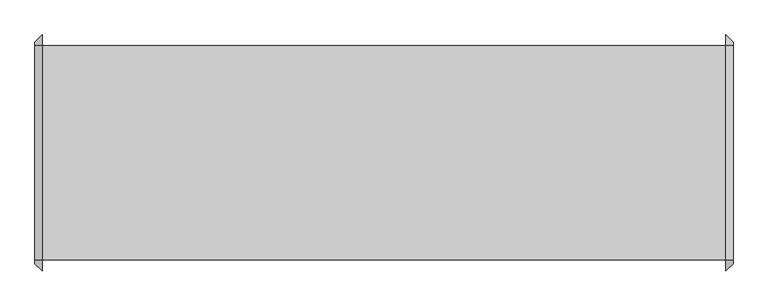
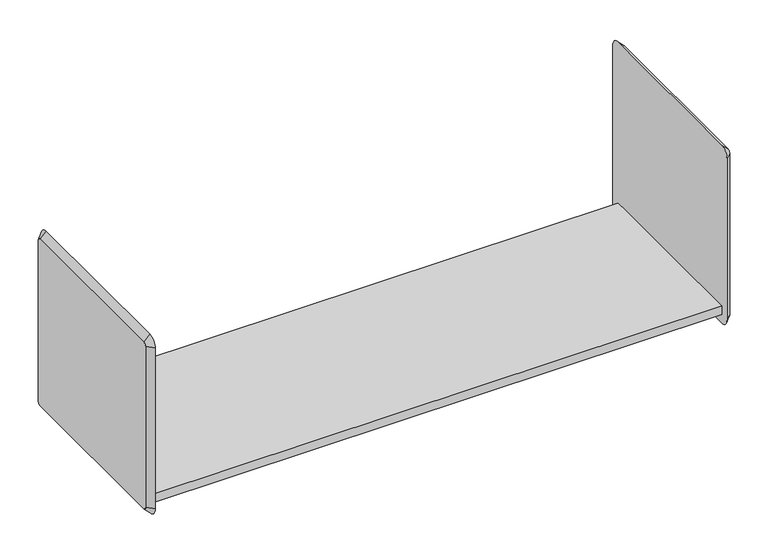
"""IFC4 building model written with IfcOpenShell, lengths in millimetres: furniture geometry, HermanMiller_ActionOffice_A3210_B-StyleShelf : 15-1/2H 16D 48W."""

import ifcopenshell
import ifcopenshell.guid

model = None  # the IFC model being written
_history = None  # IfcOwnerHistory: only IFC2X3 demands one
_inside = {}  # id of a spatial element -> (the spatial element, [elements in it])
_under = {}  # id of a project, library or spatial element -> (it, [spatial elements below it])
_declared = {}  # id of a project -> (the project, [libraries it declares])
_typed = {}  # id of a type object -> (the type object, [elements of that type])
_made_of = {}  # id of a material, layer set ... -> (it, [elements and type objects made of it])


def new_model(schema):
    """Start an empty IFC model of exactly this schema.

    Asked for "IFC4X3", IfcOpenShell would pick the latest addendum, in which some entities
    have other attributes; the version numbers below select the first issue.
    IFC2X3 requires an IfcOwnerHistory on every rooted entity: one is made here for all.
    """
    global model, _history
    if schema == "IFC4X3":
        model = ifcopenshell.file(schema_version=(4, 3, 0, 0))
    else:
        model = ifcopenshell.file(schema=schema)
    _inside.clear()
    _under.clear()
    _declared.clear()
    _typed.clear()
    _made_of.clear()
    _history = None
    if model.schema == "IFC2X3":
        org = make("IfcOrganization", Name="unknown")
        user = make(
            "IfcPersonAndOrganization",
            ThePerson=make("IfcPerson", FamilyName="unknown"),
            TheOrganization=org,
        )
        app = make(
            "IfcApplication",
            ApplicationDeveloper=org,
            Version="unknown",
            ApplicationFullName="unknown",
            ApplicationIdentifier="unknown",
        )
        _history = make(
            "IfcOwnerHistory",
            OwningUser=user,
            OwningApplication=app,
            ChangeAction="ADDED",
            CreationDate=0,
        )
    return model


def make(cls, **values):
    """One entity of the class cls with the attributes given. An attribute that is None is left unset."""
    return model.create_entity(
        cls, **{name: value for name, value in values.items() if value is not None}
    )


def rooted(cls, **values):
    """An entity with a GlobalId (a new one), such as an element, a storey or a relation."""
    return make(cls, GlobalId=ifcopenshell.guid.new(), OwnerHistory=_history, **values)


def si_unit(unit_type, name, prefix=None):
    """IfcSIUnit, for example si_unit("LENGTHUNIT", "METRE", prefix="MILLI")."""
    return make("IfcSIUnit", UnitType=unit_type, Prefix=prefix, Name=name)


def assignment(units):
    """IfcUnitAssignment: the units of a project."""
    return None if units is None else make("IfcUnitAssignment", Units=units)


def point(xyz):
    """IfcCartesianPoint."""
    return None if xyz is None else make("IfcCartesianPoint", Coordinates=xyz)


def direction(xyz):
    """IfcDirection."""
    return None if xyz is None else make("IfcDirection", DirectionRatios=xyz)


def frame(location, z_axis=None, x_axis=None):
    """IfcAxis2Placement3D, a coordinate frame: its origin and axes. An axis left out is left unset."""
    return make(
        "IfcAxis2Placement3D",
        Location=point(location),
        Axis=direction(z_axis),
        RefDirection=direction(x_axis),
    )


def origin():
    """The frame at (0, 0, 0) with its axes left unset."""
    return frame((0.0, 0.0, 0.0))


def place(relative_to, where):
    """IfcLocalPlacement: puts the frame where relative to a parent placement (None: the world)."""
    return make(
        "IfcLocalPlacement", PlacementRelTo=relative_to, RelativePlacement=where
    )


def context(
    kind, dimensions, precision=None, world=None, true_north=None, identifier=None
):
    """IfcGeometricRepresentationContext, for example the 3D "Model" context."""
    return make(
        "IfcGeometricRepresentationContext",
        ContextIdentifier=identifier,
        ContextType=kind,
        CoordinateSpaceDimension=dimensions,
        Precision=precision,
        WorldCoordinateSystem=world,
        TrueNorth=true_north,
    )


def project(units=None, contexts=None):
    """IfcProject with its units and contexts."""
    return rooted(
        "IfcProject",
        Name="project",
        RepresentationContexts=contexts,
        UnitsInContext=assignment(units),
    )


def spatial(cls, under=None, at=None, **own):
    """A site, building, storey or space (cls), placed at a placement, below another one or the project."""
    s = rooted(cls, ObjectPlacement=at, **own)
    if under is not None:
        _under.setdefault(under.id(), (under, []))[1].append(s)
    return s


def polyline(points):
    """IfcPolyline through the points."""
    return make("IfcPolyline", Points=[point(p) for p in points])


def circle_curve(where, radius):
    """IfcCircle in the frame where."""
    return make("IfcCircle", Position=where, Radius=radius)


def outline(outer, holes=None, kind="AREA"):
    """IfcArbitraryClosedProfileDef: a profile drawn as a closed curve; with holes, ...WithVoids."""
    if holes is None:
        return make("IfcArbitraryClosedProfileDef", ProfileType=kind, OuterCurve=outer)
    return make(
        "IfcArbitraryProfileDefWithVoids",
        ProfileType=kind,
        OuterCurve=outer,
        InnerCurves=holes,
    )


def extrude(swept, where, along, depth):
    """IfcExtrudedAreaSolid: the profile swept, set in the frame where, extruded along a direction by depth."""
    return make(
        "IfcExtrudedAreaSolid",
        SweptArea=swept,
        Position=where,
        ExtrudedDirection=direction(along),
        Depth=depth,
    )


def shape(context_of_items, identifier, shape_type, items):
    """IfcShapeRepresentation: the items that make up one representation, for example the "Body"."""
    return make(
        "IfcShapeRepresentation",
        ContextOfItems=context_of_items,
        RepresentationIdentifier=identifier,
        RepresentationType=shape_type,
        Items=items,
    )


def source(mapping_origin, context_of_items, identifier, shape_type, items):
    """IfcRepresentationMap: a shape defined once, which mapped items show again and again."""
    return make(
        "IfcRepresentationMap",
        MappingOrigin=mapping_origin,
        MappedRepresentation=shape(context_of_items, identifier, shape_type, items),
    )


def transform(
    local_origin,
    x_axis=None,
    y_axis=None,
    z_axis=None,
    scale=None,
    scale2=None,
    scale3=None,
    uniform=True,
):
    """IfcCartesianTransformationOperator3D, or its non-uniform kind. x_axis, y_axis, z_axis: its Axis1, 2, 3."""
    if uniform:
        return make(
            "IfcCartesianTransformationOperator3D",
            Axis1=direction(x_axis),
            Axis2=direction(y_axis),
            LocalOrigin=point(local_origin),
            Scale=scale,
            Axis3=direction(z_axis),
        )
    return make(
        "IfcCartesianTransformationOperator3DnonUniform",
        Axis1=direction(x_axis),
        Axis2=direction(y_axis),
        LocalOrigin=point(local_origin),
        Scale=scale,
        Axis3=direction(z_axis),
        Scale2=scale2,
        Scale3=scale3,
    )


def mapped(mapping_source, mapping_target):
    """IfcMappedItem: shows the shape of a source again, moved by a transform."""
    return make(
        "IfcMappedItem", MappingSource=mapping_source, MappingTarget=mapping_target
    )


def made_of(thing, what):
    """Note that an element or type object is made of a material, layer set ...; save() writes the relation."""
    if what is not None:
        _made_of.setdefault(what.id(), (what, []))[1].append(thing)
    return thing


def element(
    cls,
    number,
    at=None,
    inside=None,
    cuts=None,
    type_object=None,
    material=None,
    context=None,
    identifier="Body",
    shape_type=None,
    held_by="IfcProductDefinitionShape",
    body=None,
    shapes=None,
    **own,
):
    """One element of the class cls, such as IfcWall. Its Tag is "e" and its number.

    at: its placement. inside: the storey or other place that contains it. cuts: it is an
    opening in that element (IfcRelVoidsElement). A single representation is given by context,
    identifier, shape_type and body (its items); several are given by shapes. held_by: the class
    of the entity that holds the representations. save() writes the other relations.
    """
    e = rooted(cls, Tag="e%d" % number, ObjectPlacement=at, **own)
    if body is not None:
        shapes = [shape(context, identifier, shape_type, body)]
    if shapes is not None:
        e.Representation = make(held_by, Representations=shapes)
    if inside is not None:
        _inside.setdefault(inside.id(), (inside, []))[1].append(e)
    if cuts is not None:
        rooted(
            "IfcRelVoidsElement", RelatingBuildingElement=cuts, RelatedOpeningElement=e
        )
    if type_object is not None:
        _typed.setdefault(type_object.id(), (type_object, []))[1].append(e)
    return made_of(e, material)


def aggregate(whole, parts):
    """IfcRelAggregates: a whole, such as a stair, and the parts it consists of."""
    return rooted("IfcRelAggregates", RelatingObject=whole, RelatedObjects=parts)


def save(model, path):
    """Write the relations noted so far, then the file.

    IfcRelAggregates (storeys below a building ...), IfcRelContainedInSpatialStructure (elements
    in a storey), IfcRelDefinesByType, IfcRelAssociatesMaterial and IfcRelDeclares: one each for
    every whole, place, type object, material and project.
    """
    for whole, parts in _under.values():
        aggregate(whole, parts)
    for where, things in _inside.values():
        rooted(
            "IfcRelContainedInSpatialStructure",
            RelatedElements=things,
            RelatingStructure=where,
        )
    for kind, things in _typed.values():
        rooted("IfcRelDefinesByType", RelatedObjects=things, RelatingType=kind)
    for what, things in _made_of.values():
        rooted("IfcRelAssociatesMaterial", RelatedObjects=things, RelatingMaterial=what)
    for by, libraries in _declared.values():
        rooted("IfcRelDeclares", RelatingContext=by, RelatedDefinitions=libraries)
    model.write(path)


def plane_surface(at):
    """IfcPlane: the flat surface through the origin of the frame at, square to its z axis."""
    return make("IfcPlane", Position=at)


def revolved_surface(curve, axis_point, axis_direction):
    """IfcSurfaceOfRevolution: the curve turned about the line through axis_point along axis_direction."""
    return make(
        "IfcSurfaceOfRevolution",
        SweptCurve=make("IfcArbitraryOpenProfileDef", ProfileType="CURVE", Curve=curve),
        AxisPosition=make("IfcAxis1Placement", Location=point(axis_point), Axis=direction(axis_direction)),
    )


def advanced_brep(points, edges, surfaces, faces):
    """IfcAdvancedBrep: a solid bounded by faces that lie on surfaces and meet in shared edges.

    An edge is (start, end): straight between two places in points (the first is 0);
    or (start, end, curve); or (start, end, curve, False) where it runs against its curve.
    A face is (place in surfaces, loops), or (place, loops, False) where it looks against
    its surface's normal. A loop lists edges by number (the first is 1), with a minus sign
    where the edge is run from its end to its start. The first loop is the outer one.
    """
    corners = [point(p) for p in points]
    vertices = [make("IfcVertexPoint", VertexGeometry=c) for c in corners]
    made = []
    for start, end, *more in edges:
        made.append(
            make(
                "IfcEdgeCurve",
                EdgeStart=vertices[start],
                EdgeEnd=vertices[end],
                EdgeGeometry=more[0] if more else make("IfcPolyline", Points=[corners[start], corners[end]]),
                SameSense=more[1] if len(more) > 1 else True,
            )
        )
    hull = []
    for where, loops, *sense in faces:
        bounds = []
        for j, loop in enumerate(loops):
            ring = [make("IfcOrientedEdge", EdgeElement=made[abs(k) - 1], Orientation=k > 0) for k in loop]
            bounds.append(
                make(
                    "IfcFaceOuterBound" if j == 0 else "IfcFaceBound",
                    Bound=make("IfcEdgeLoop", EdgeList=ring),
                    Orientation=True,
                )
            )
        hull.append(make("IfcAdvancedFace", Bounds=bounds, FaceSurface=surfaces[where], SameSense=sense[0] if sense else True))
    return make("IfcAdvancedBrep", Outer=make("IfcClosedShell", CfsFaces=hull))


def furniture_85efdc16(model_context):
    return source(origin(), model_context, "Body", "SolidModel", [
        extrude(outline(polyline([(472.9579955, 200.025), (472.9579955, 196.85), (-720.8420045, 196.85), (-720.8420045, 200.025), (472.9579955, 200.025)])), frame((0.0, 0.0, 1200.1152313), z_axis=(0.0, 0.0, 1.0), x_axis=(1.0, 0.0, 0.0)), (0.0, 0.0, 1.0), 15.9097687),
        extrude(outline(polyline([(-174.625, 1219.2), (200.025, 1219.2), (200.025, 1216.025), (-171.45, 1216.025), (-171.45, 1200.1152313), (-174.625, 1200.1152313), (-174.625, 1219.2)])), frame((-720.8420045, 0.0, 0.0), z_axis=(1.0, 0.0, 0.0), x_axis=(0.0, 1.0, 0.0)), (0.0, 0.0, 1.0), 1193.8),
        advanced_brep(
        [(485.6579955, 200.025, 1562.1), (485.6579955, -174.625, 1562.1), (485.6579955, -180.975, 1555.75), (485.6579955, -180.975, 1200.15), (485.6579955, -174.625, 1193.8), (485.6579955, 200.025, 1193.8), (485.6579955, 206.375, 1200.15), (485.6579955, 206.375, 1555.75), (472.9579955, 200.025, 1574.8), (472.9579955, 219.075, 1555.75), (472.9579955, 219.075, 1200.15), (472.9579955, 200.025, 1181.1), (472.9579955, -174.625, 1181.1), (472.9579955, -193.675, 1200.15), (472.9579955, -193.675, 1555.75), (472.9579955, -174.625, 1574.8)],
        [
            (0, 1),
            (1, 2, circle_curve(frame((485.6579955, -174.625, 1555.75), z_axis=(1.0, 0.0, 0.0), x_axis=(0.0, 0.0, 1.0)), 6.35)),
            (2, 3),
            (3, 4, circle_curve(frame((485.6579955, -174.625, 1200.15), z_axis=(1.0, 0.0, 0.0), x_axis=(0.0, -1.0, 0.0)), 6.35)),
            (4, 5),
            (5, 6, circle_curve(frame((485.6579955, 200.025, 1200.15), z_axis=(1.0, 0.0, 0.0), x_axis=(0.0, 0.0, -1.0)), 6.35)),
            (6, 7),
            (7, 0, circle_curve(frame((485.6579955, 200.025, 1555.75), z_axis=(1.0, 0.0, 0.0), x_axis=(0.0, 1.0, 0.0)), 6.35)),
            (8, 9, circle_curve(frame((472.9579955, 200.025, 1555.75), z_axis=(-1.0, 0.0, 0.0), x_axis=(0.0, 1.0, 0.0)), 19.05)),
            (9, 10),
            (10, 11, circle_curve(frame((472.9579955, 200.025, 1200.15), z_axis=(-1.0, 0.0, 0.0), x_axis=(0.0, 0.0, -1.0)), 19.05)),
            (11, 12),
            (12, 13, circle_curve(frame((472.9579955, -174.625, 1200.15), z_axis=(-1.0, 0.0, 0.0), x_axis=(0.0, -1.0, 0.0)), 19.05)),
            (13, 14),
            (14, 15, circle_curve(frame((472.9579955, -174.625, 1555.75), z_axis=(-1.0, 0.0, 0.0), x_axis=(0.0, 0.0, 1.0)), 19.05)),
            (15, 8),
            (15, 1),
            (0, 8),
            (14, 2),
            (13, 3),
            (12, 4),
            (11, 5),
            (10, 6),
            (9, 7),
        ],
        [
            plane_surface(frame((485.6579955, 12.7, 1377.95), z_axis=(1.0, 0.0, 0.0), x_axis=(0.0, -1.0, 0.0))),
            plane_surface(frame((472.9579955, 12.7, 1377.95), z_axis=(-1.0, 0.0, 0.0), x_axis=(0.0, -1.0, 0.0))),
            plane_surface(frame((472.9579955, 12.7, 1574.8), z_axis=(0.7071067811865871, 0.0, 0.707106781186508), x_axis=(0.0, -1.0, 0.0))),
            revolved_surface(polyline([(485.6579955, -174.625, 1562.1), (472.9579955, -174.625, 1574.8)]), (492.0079955, -174.625, 1555.75), (-1.0, 0.0, 0.0)),
            plane_surface(frame((472.9579955, -193.675, 1377.95), z_axis=(0.7071067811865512, -0.7071067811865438, 0.0), x_axis=(0.0, 0.0, -1.0))),
            revolved_surface(polyline([(485.6579955, -180.97499999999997, 1200.15), (472.9579955, -193.675, 1200.15)]), (492.0079955, -174.625, 1200.15), (-1.0, 0.0, 0.0)),
            plane_surface(frame((472.9579955, 12.7, 1181.1), z_axis=(0.7071067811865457, 0.0, -0.7071067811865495), x_axis=(0.0, 1.0, 0.0))),
            revolved_surface(polyline([(485.6579955, 200.025, 1193.8000000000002), (472.9579955, 200.025, 1181.1)]), (492.0079955, 200.025, 1200.15), (-1.0, 0.0, 0.0)),
            plane_surface(frame((472.9579955, 219.075, 1377.95), z_axis=(0.7071067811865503, 0.7071067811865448, 0.0), x_axis=(0.0, 0.0, 1.0))),
            revolved_surface(polyline([(485.6579955, 206.37499999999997, 1555.75), (472.9579955, 219.075, 1555.75)]), (492.0079955, 200.025, 1555.75), (-1.0, 0.0, 0.0)),
        ],
        [
            (0, [[1, 2, 3, 4, 5, 6, 7, 8]]),
            (1, [[9, 10, 11, 12, 13, 14, 15, 16]]),
            (2, [[-16, 17, -1, 18]]),
            (3, [[-15, 19, -2, -17]]),
            (4, [[-14, 20, -3, -19]]),
            (5, [[-13, 21, -4, -20]]),
            (6, [[-12, 22, -5, -21]]),
            (7, [[-11, 23, -6, -22]]),
            (8, [[-10, 24, -7, -23]]),
            (9, [[-9, -18, -8, -24]]),
        ],
    ),
        advanced_brep(
        [(-733.5420045, -174.625, 1562.1), (-733.5420045, 200.025, 1562.1), (-733.5420045, 206.375, 1555.75), (-733.5420045, 206.375, 1200.15), (-733.5420045, 200.025, 1193.8), (-733.5420045, -174.625, 1193.8), (-733.5420045, -180.975, 1200.15), (-733.5420045, -180.975, 1555.75), (-720.8420045, -174.625, 1574.8), (-720.8420045, -193.675, 1555.75), (-720.8420045, -193.675, 1200.15), (-720.8420045, -174.625, 1181.1), (-720.8420045, 200.025, 1181.1), (-720.8420045, 219.075, 1200.15), (-720.8420045, 219.075, 1555.75), (-720.8420045, 200.025, 1574.8)],
        [
            (0, 1),
            (1, 2, circle_curve(frame((-733.5420045, 200.025, 1555.75), z_axis=(-1.0, -1.524114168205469e-12, -1.4495071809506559e-12), x_axis=(-1.4495093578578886e-12, 0.0, 1.0)), 6.35)),
            (2, 3),
            (3, 4, circle_curve(frame((-733.5420045, 200.025, 1200.15), z_axis=(-1.0, 0.0, 0.0), x_axis=(0.0, 1.0, 0.0)), 6.35)),
            (4, 5),
            (5, 6, circle_curve(frame((-733.5420045, -174.625, 1200.15), z_axis=(-1.0, 0.0, 0.0), x_axis=(0.0, 0.0, -1.0)), 6.35)),
            (6, 7),
            (7, 0, circle_curve(frame((-733.5420045, -174.625, 1555.75), z_axis=(-1.0, -1.5214496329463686e-12, 1.5987211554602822e-12), x_axis=(1.5214195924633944e-12, -1.0, 0.0)), 6.35)),
            (8, 9, circle_curve(frame((-720.8420045, -174.625, 1555.75), z_axis=(1.0, 1.5214496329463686e-12, -1.5987211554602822e-12), x_axis=(1.5214195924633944e-12, -1.0, 0.0)), 19.05)),
            (9, 10),
            (10, 11, circle_curve(frame((-720.8420045, -174.625, 1200.15), z_axis=(1.0, 0.0, 0.0), x_axis=(0.0, 0.0, -1.0)), 19.05)),
            (11, 12),
            (12, 13, circle_curve(frame((-720.8420045, 200.025, 1200.15), z_axis=(1.0, 0.0, 0.0), x_axis=(0.0, 1.0, 0.0)), 19.05)),
            (13, 14),
            (14, 15, circle_curve(frame((-720.8420045, 200.025, 1555.75), z_axis=(1.0, 1.524114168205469e-12, 1.4495071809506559e-12), x_axis=(-1.4495093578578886e-12, 0.0, 1.0)), 19.05)),
            (15, 8),
            (15, 1),
            (0, 8),
            (14, 2),
            (13, 3),
            (12, 4),
            (11, 5),
            (10, 6),
            (9, 7),
        ],
        [
            plane_surface(frame((-733.5420045, 12.7, 1377.95), z_axis=(-1.0, 0.0, 0.0), x_axis=(0.0, -1.0, 0.0))),
            plane_surface(frame((-720.8420045, 12.7, 1377.95), z_axis=(1.0, 0.0, 0.0), x_axis=(0.0, -1.0, 0.0))),
            plane_surface(frame((-720.8420045, 12.7, 1574.8), z_axis=(-0.7071067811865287, 0.0, 0.7071067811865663), x_axis=(0.0, 1.0, 0.0))),
            revolved_surface(polyline([(-733.5420045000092, 200.025, 1562.0999999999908), (-720.8420044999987, 200.025, 1574.8000000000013)]), (-739.8920045, 200.025, 1555.75), (1.0, 1.524114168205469e-12, 1.4495071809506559e-12)),
            plane_surface(frame((-720.8420045, 219.075, 1377.95), z_axis=(-0.7071067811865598, 0.7071067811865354, 0.0), x_axis=(0.0, 0.0, -1.0))),
            revolved_surface(polyline([(-733.5420045, 206.37500000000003, 1200.15), (-720.8420045, 219.075, 1200.15)]), (-739.8920045, 200.025, 1200.15), (1.0, 0.0, 0.0)),
            plane_surface(frame((-720.8420045, 12.7, 1181.1), z_axis=(-0.7071067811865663, 0.0, -0.7071067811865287), x_axis=(0.0, -1.0, 0.0))),
            revolved_surface(polyline([(-733.5420045, -174.625, 1193.8), (-720.8420045, -174.625, 1181.1)]), (-739.8920045, -174.625, 1200.15), (1.0, 0.0, 0.0)),
            plane_surface(frame((-720.8420045, -193.675, 1377.95), z_axis=(-0.7071067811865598, -0.7071067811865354, 0.0), x_axis=(0.0, 0.0, 1.0))),
            revolved_surface(polyline([(-733.5420045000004, -180.97499999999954, 1555.75), (-720.842004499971, -193.675000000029, 1555.75)]), (-739.8920045, -174.625, 1555.75), (1.0, 1.5214496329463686e-12, -1.5987211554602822e-12)),
        ],
        [
            (0, [[1, 2, 3, 4, 5, 6, 7, 8]]),
            (1, [[9, 10, 11, 12, 13, 14, 15, 16]]),
            (2, [[-16, 17, -1, 18]]),
            (3, [[-15, 19, -2, -17]]),
            (4, [[-14, 20, -3, -19]]),
            (5, [[-13, 21, -4, -20]]),
            (6, [[-12, 22, -5, -21]]),
            (7, [[-11, 23, -6, -22]]),
            (8, [[-10, 24, -7, -23]]),
            (9, [[-9, -18, -8, -24]]),
        ],
    ),
    ])


if __name__ == "__main__":
    model = new_model("IFC4")
    model_context = context("Model", 3, world=origin())
    ifc_project = project(units=[si_unit("LENGTHUNIT", "METRE", prefix="MILLI")], contexts=[model_context])
    site = spatial("IfcSite", under=ifc_project)
    building = spatial("IfcBuilding", under=site)
    placement = place(None, origin())
    furniture_shape = furniture_85efdc16(model_context)
    element("IfcFurniture", 1, ObjectType="HermanMiller_ActionOffice_A3210_B-StyleShelf : 15-1/2H 16D 48W", at=placement, inside=building, context=model_context, shape_type="MappedRepresentation", body=[
        mapped(furniture_shape, transform((0.0, 0.0, 0.0), x_axis=(1.0, 0.0, 0.0), y_axis=(0.0, 1.0, 0.0), z_axis=(0.0, 0.0, 1.0))),
    ])
    save(model, "model.ifc")
